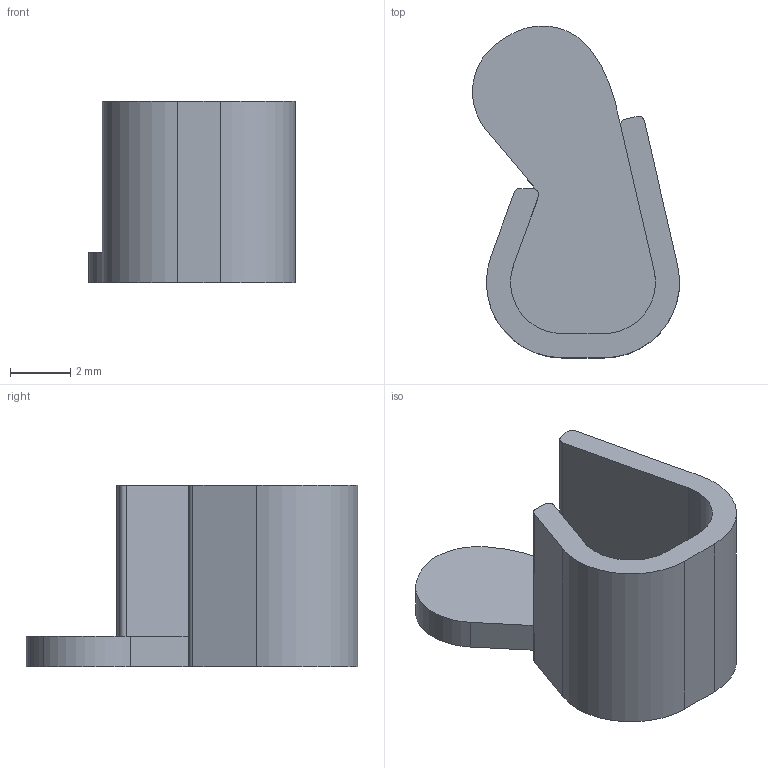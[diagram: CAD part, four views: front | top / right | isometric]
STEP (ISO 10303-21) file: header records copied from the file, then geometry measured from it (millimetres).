
FILE_DESCRIPTION (( 'STEP AP214' ), '1' );
FILE_NAME ('RIC-EK-11.STEP', '2024-04-11T06:54:09', ( '' ), ( '' ), 'SwSTEP 2.0', 'SolidWorks 2022', '' );
FILE_SCHEMA (( 'AUTOMOTIVE_DESIGN' ));
Length unit declared in the file: millimetre
Products named in the file (1): RIC-EK-11
Bounding box: 6.85 x 10.99 x 6 mm (x, y, z)
Volume: 121.1 mm3; surface area: 314.5 mm2
Topology: 1 solids, 1 shells, 25 faces, 68 edges, 45 vertices
Faces by surface type: plane 13, cylinder 12
Entity records: 833 total; most frequent: DIRECTION 145, CARTESIAN_POINT 139, ORIENTED_EDGE 136, EDGE_CURVE 68, AXIS2_PLACEMENT_3D 51, VERTEX_POINT 45, VECTOR 43, LINE 43
